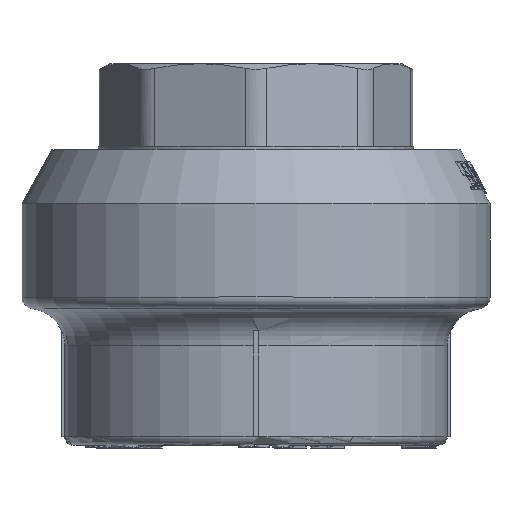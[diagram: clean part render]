
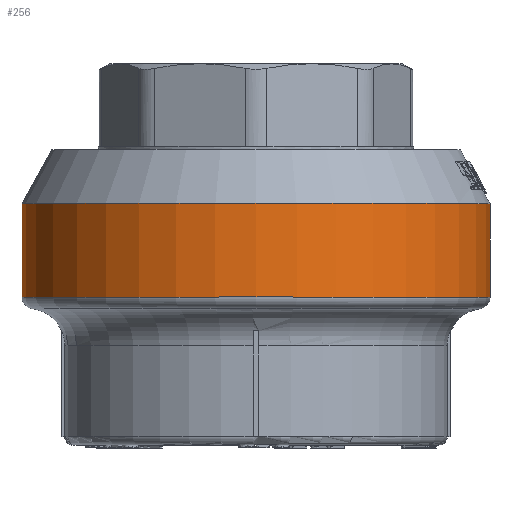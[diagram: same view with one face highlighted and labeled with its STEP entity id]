
A CAD part, top view. The second image highlights one B-rep face of the part: STEP entity #256.
In plain terms, the highlighted cylindrical face has radius 41 mm (diameter 82 mm), a full revolution.
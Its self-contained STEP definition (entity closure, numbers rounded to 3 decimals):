
#256=ADVANCED_FACE('',(#1218,#1220),#1222,.T.);
#1218=FACE_OUTER_BOUND('',#1219,.T.);
#1219=EDGE_LOOP('',(#7364));
#1220=FACE_OUTER_BOUND('',#1221,.T.);
#1221=EDGE_LOOP('',(#7365));
#1222=CYLINDRICAL_SURFACE('',#1223,41.);
#1223=AXIS2_PLACEMENT_3D('',#1224,#1225,#1226);
#1224=CARTESIAN_POINT('',(0.,23.95,0.));
#1225=DIRECTION('',(0.,1.,0.));
#1226=DIRECTION('',(-1.,0.,0.));
#7364=ORIENTED_EDGE('',*,*,#13069,.T.);
#7365=ORIENTED_EDGE('',*,*,#13259,.T.);
#13069=EDGE_CURVE('',#15382,#15382,#15383,.T.);
#13259=EDGE_CURVE('',#15762,#15762,#15763,.T.);
#15382=VERTEX_POINT('',#19260);
#15383=CIRCLE('',#19261,41.);
#15762=VERTEX_POINT('',#21252);
#15763=CIRCLE('',#21253,41.);
#19260=CARTESIAN_POINT('',(-41.,42.3,0.));
#19261=AXIS2_PLACEMENT_3D('',#19262,#19263,#19264);
#19262=CARTESIAN_POINT('',(0.,42.3,0.));
#19263=DIRECTION('',(0.,-1.,0.));
#19264=DIRECTION('',(-1.,0.,0.));
#21252=CARTESIAN_POINT('',(-41.,25.891,0.));
#21253=AXIS2_PLACEMENT_3D('',#21254,#21255,#21256);
#21254=CARTESIAN_POINT('',(0.,25.891,0.));
#21255=DIRECTION('',(0.,1.,0.));
#21256=DIRECTION('',(-1.,0.,0.));
